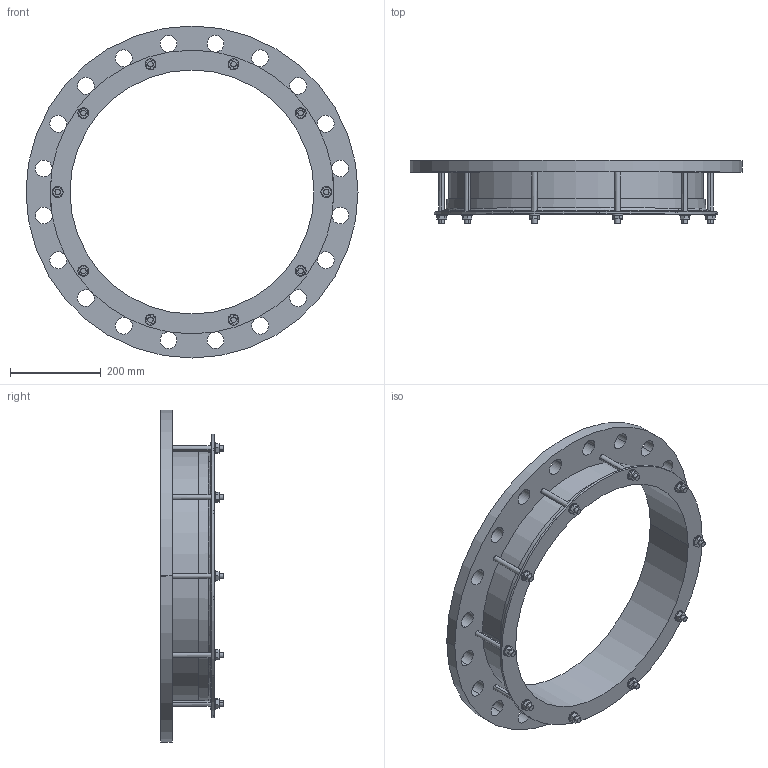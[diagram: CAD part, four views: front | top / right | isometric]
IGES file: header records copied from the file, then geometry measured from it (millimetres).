
Start section:  PTC IGES file: 532x500pn25_10not.igs
Global section: file name: 532x500pn25_10not.igs; native system: Creo Parametric by PTC Inc.; preprocessor: 2016130; author: mfairey; organization: Unknown; date: 20190404.115106; units: millimetre
Bounding box: 730 x 137.45 x 730 mm (x, y, z)
Surface area: 970027.7 mm2 (no closed solid volume)
Topology: 0 solids, 0 shells, 226 faces, 1208 edges, 1208 vertices
Faces by surface type: revolution 132, bspline 94
